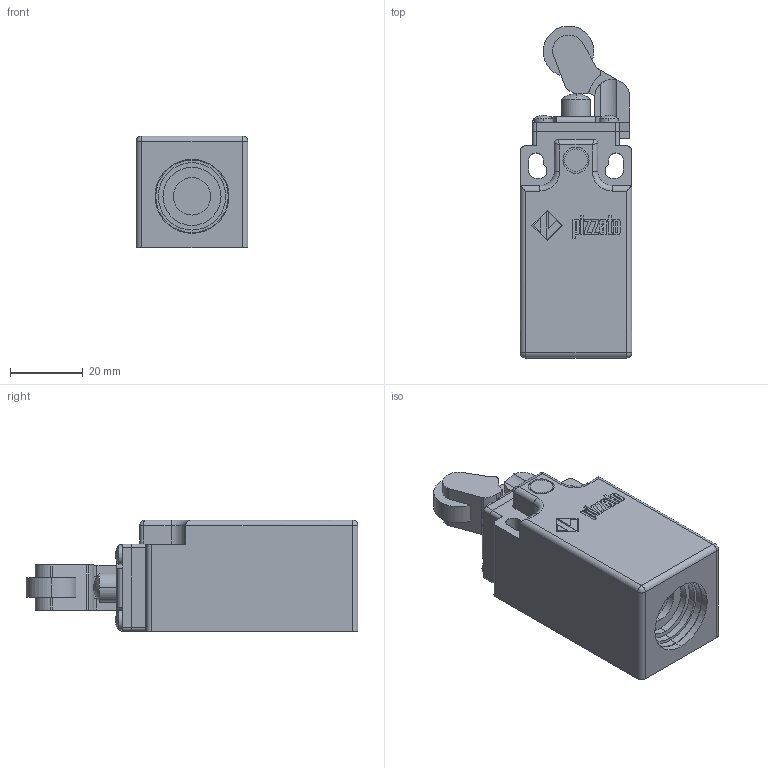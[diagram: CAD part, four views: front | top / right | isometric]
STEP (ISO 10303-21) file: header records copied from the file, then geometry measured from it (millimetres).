
FILE_DESCRIPTION (( 'STEP AP203' ), '1' );
FILE_NAME ('ZF_STEP_FR_x02_A08.step', '2009-06-11T15:11:31', ( '' ), ( '' ), 'SwSTEP 2.0', 'SolidWorks 2009', '' );
FILE_SCHEMA (( 'CONFIG_CONTROL_DESIGN' ));
Length unit declared in the file: millimetre
Products named in the file (5): Pizzato_Supporto_TE02; ZF_STEP_FR_x02_A08; PIzzato_Leva_TE02_3407; Pizzato_Custodia_FR; Pizzato_Pulsante_TE01
Assembly tree (4 placements, depth 2):
  ZF_STEP_FR_x02_A08
    Pizzato_Custodia_FR
    Pizzato_Pulsante_TE01
    Pizzato_Supporto_TE02
    PIzzato_Leva_TE02_3407
Bounding box: 30.8 x 91.54 x 30.8 mm (x, y, z)
Volume: 58206.3 mm3; surface area: 15724.5 mm2
Topology: 4 solids, 4 shells, 481 faces, 1262 edges, 829 vertices
Faces by surface type: plane 274, cylinder 122, bspline 71, sphere 12, torus 2
Entity records: 18717 total; most frequent: CARTESIAN_POINT 6600, ORIENTED_EDGE 2516, DIRECTION 2194, EDGE_CURVE 1258, VECTOR 860, LINE 860, VERTEX_POINT 829, AXIS2_PLACEMENT_3D 667
